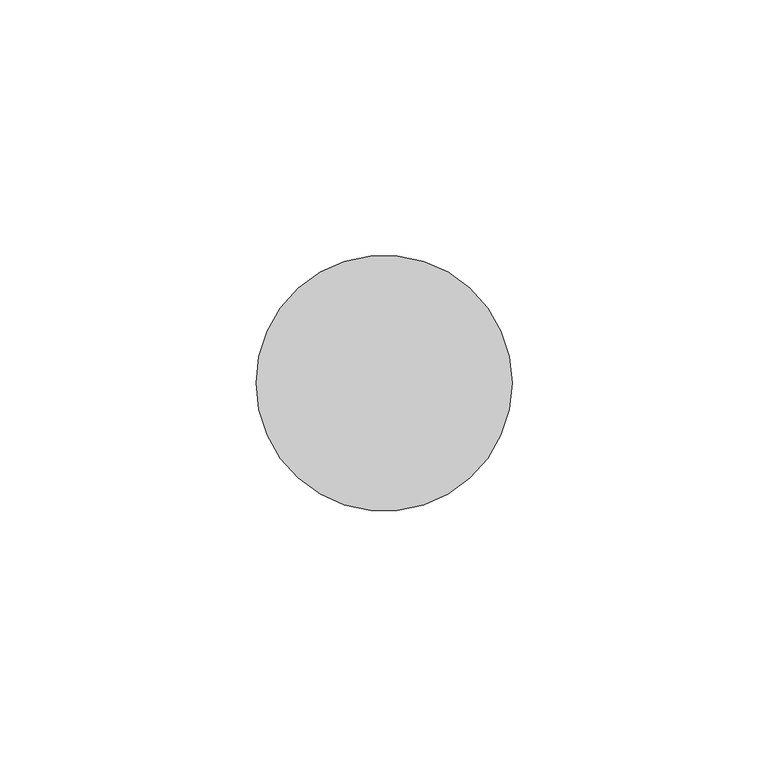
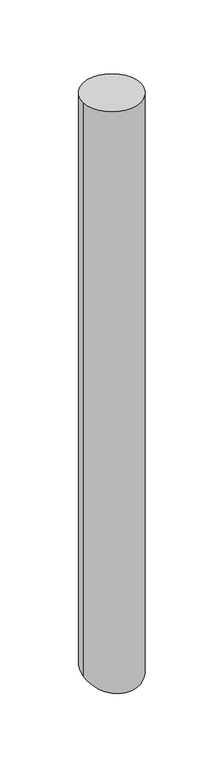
"""IFC4 building model written with IfcOpenShell, lengths in millimetres: member geometry, Импост круглого сечения : Радиус 25мм."""

from ifc_helpers import new_model, si_unit, frame, origin, place, context, project, spatial, circle_curve, ellipse_curve, source, transform, mapped, element, save
from ifc_brep_helpers import plane_surface, cylinder_surface, advanced_brep


def member_6c500f24(model_context):
    return source(origin(), model_context, "Body", "AdvancedBrep", [
        advanced_brep(
        [(0.0, 0.0, 0.0), (-50.0, 0.0, 0.0), (0.0, 0.0, -525.0), (-50.0, 0.0, -525.0)],
        [
            (0, 1, circle_curve(frame((-25.0, 0.0, 0.0), z_axis=(0.0, 0.0, 1.0), x_axis=(1.0, 0.0, 0.0)), 25.0)),
            (1, 0, circle_curve(frame((-25.0, 0.0, 0.0), z_axis=(0.0, 0.0, 1.0), x_axis=(1.0, 0.0, 0.0)), 25.0)),
            (0, 2),
            (2, 3, ellipse_curve(frame((-25.0, 0.0, -525.0), z_axis=(0.0, -0.316612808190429, 0.9485548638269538), x_axis=(0.0, 0.9485548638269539, 0.3166128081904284)), 26.3558819, 25.0)),
            (3, 1),
            (3, 2, ellipse_curve(frame((-25.0, 0.0, -525.0), z_axis=(0.0, -0.316612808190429, 0.9485548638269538), x_axis=(0.0, 0.9485548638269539, 0.3166128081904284)), 26.3558819, 25.0)),
        ],
        [
            plane_surface(frame((0.0, -50.0, 0.0), z_axis=(0.0, 0.0, 1.0), x_axis=(-1.0, 0.0, 0.0))),
            cylinder_surface(frame((-25.0, 0.0, 0.0), z_axis=(0.0, 0.0, 1.0), x_axis=(1.0, 0.0, 0.0)), 25.0),
            plane_surface(frame((-304.8, 0.0, -525.0), z_axis=(0.0, 0.316612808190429, -0.9485548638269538), x_axis=(0.0, 0.9485548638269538, 0.316612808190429))),
        ],
        [
            (0, [[1, 2]]),
            (1, [[-1, 3, 4, 5]]),
            (1, [[-2, -5, 6, -3]]),
            (2, [[-6, -4]]),
        ],
    ),
    ])


if __name__ == "__main__":
    model = new_model("IFC4")
    model_context = context("Model", 3, world=origin())
    ifc_project = project(units=[si_unit("LENGTHUNIT", "METRE", prefix="MILLI")], contexts=[model_context])
    site = spatial("IfcSite", under=ifc_project)
    building = spatial("IfcBuilding", under=site)
    placement = place(None, origin())
    member_shape = member_6c500f24(model_context)
    element("IfcMember", 1, ObjectType="Импост круглого сечения : Радиус 25мм", at=placement, inside=building, context=model_context, shape_type="MappedRepresentation", body=[
        mapped(member_shape, transform((0.0, 0.0, 0.0), x_axis=(1.0, 0.0, 0.0), y_axis=(0.0, 1.0, 0.0), z_axis=(0.0, 0.0, 1.0))),
    ])
    save(model, "model.ifc")
